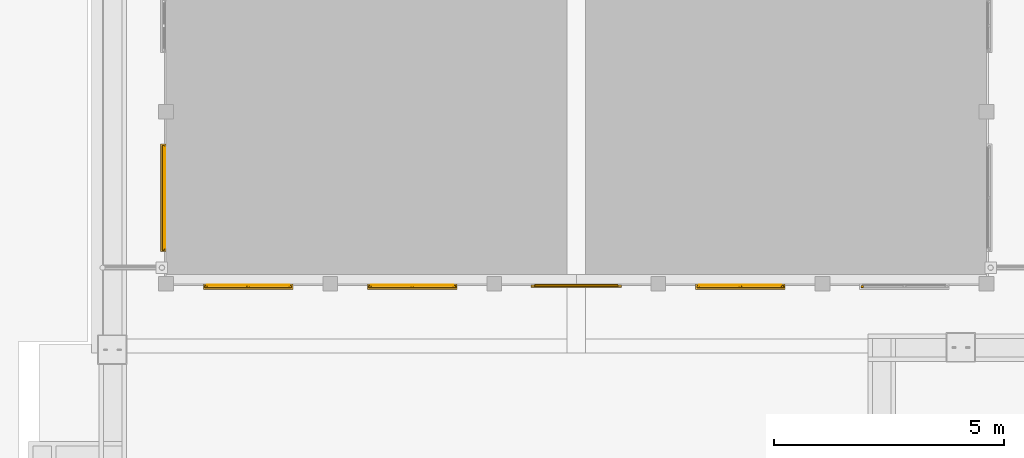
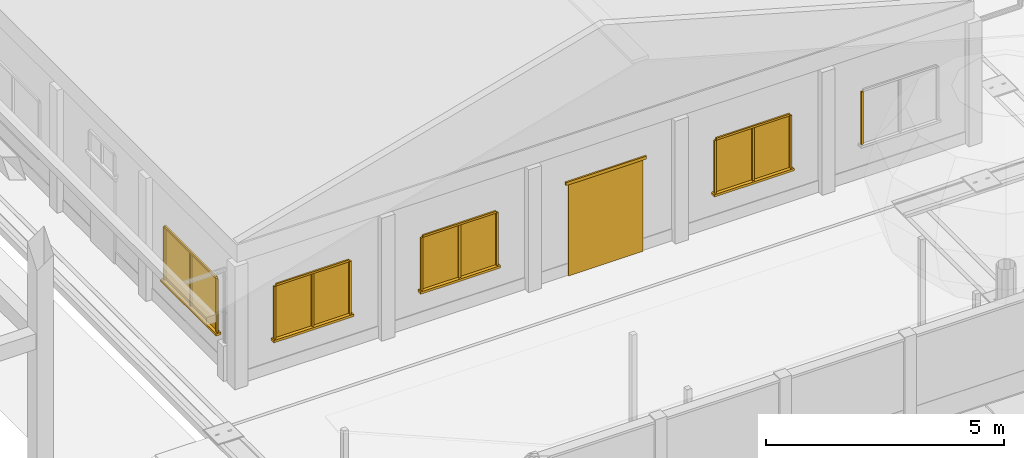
# One storey, part 42 of 177: 25 windows, 2 doors.
"""IFC4 building model written with IfcOpenShell, lengths in metres."""

import ifcopenshell
import ifcopenshell.guid

model = None  # the IFC model being written
_history = None  # IfcOwnerHistory: only IFC2X3 demands one
_inside = {}  # id of a spatial element -> (the spatial element, [elements in it])
_under = {}  # id of a project, library or spatial element -> (it, [spatial elements below it])
_declared = {}  # id of a project -> (the project, [libraries it declares])
_typed = {}  # id of a type object -> (the type object, [elements of that type])
_made_of = {}  # id of a material, layer set ... -> (it, [elements and type objects made of it])


def new_model(schema):
    """Start an empty IFC model of exactly this schema.

    Asked for "IFC4X3", IfcOpenShell would pick the latest addendum, in which some entities
    have other attributes; the version numbers below select the first issue.
    IFC2X3 requires an IfcOwnerHistory on every rooted entity: one is made here for all.
    """
    global model, _history
    if schema == "IFC4X3":
        model = ifcopenshell.file(schema_version=(4, 3, 0, 0))
    else:
        model = ifcopenshell.file(schema=schema)
    _inside.clear()
    _under.clear()
    _declared.clear()
    _typed.clear()
    _made_of.clear()
    _history = None
    if model.schema == "IFC2X3":
        org = make("IfcOrganization", Name="unknown")
        user = make(
            "IfcPersonAndOrganization",
            ThePerson=make("IfcPerson", FamilyName="unknown"),
            TheOrganization=org,
        )
        app = make(
            "IfcApplication",
            ApplicationDeveloper=org,
            Version="unknown",
            ApplicationFullName="unknown",
            ApplicationIdentifier="unknown",
        )
        _history = make(
            "IfcOwnerHistory",
            OwningUser=user,
            OwningApplication=app,
            ChangeAction="ADDED",
            CreationDate=0,
        )
    return model


def make(cls, **values):
    """One entity of the class cls with the attributes given. An attribute that is None is left unset."""
    return model.create_entity(
        cls, **{name: value for name, value in values.items() if value is not None}
    )


def rooted(cls, **values):
    """An entity with a GlobalId (a new one), such as an element, a storey or a relation."""
    return make(cls, GlobalId=ifcopenshell.guid.new(), OwnerHistory=_history, **values)


def si_unit(unit_type, name, prefix=None):
    """IfcSIUnit, for example si_unit("LENGTHUNIT", "METRE", prefix="MILLI")."""
    return make("IfcSIUnit", UnitType=unit_type, Prefix=prefix, Name=name)


def assignment(units):
    """IfcUnitAssignment: the units of a project."""
    return None if units is None else make("IfcUnitAssignment", Units=units)


def point(xyz):
    """IfcCartesianPoint."""
    return None if xyz is None else make("IfcCartesianPoint", Coordinates=xyz)


def direction(xyz):
    """IfcDirection."""
    return None if xyz is None else make("IfcDirection", DirectionRatios=xyz)


def frame(location, z_axis=None, x_axis=None):
    """IfcAxis2Placement3D, a coordinate frame: its origin and axes. An axis left out is left unset."""
    return make(
        "IfcAxis2Placement3D",
        Location=point(location),
        Axis=direction(z_axis),
        RefDirection=direction(x_axis),
    )


def origin():
    """The frame at (0, 0, 0) with its axes left unset."""
    return frame((0.0, 0.0, 0.0))


def origin_with_axes():
    """The frame at (0, 0, 0) with the z axis (0, 0, 1) and the x axis (1, 0, 0) written out."""
    return frame((0.0, 0.0, 0.0), z_axis=(0.0, 0.0, 1.0), x_axis=(1.0, 0.0, 0.0))


def place(relative_to, where):
    """IfcLocalPlacement: puts the frame where relative to a parent placement (None: the world)."""
    return make(
        "IfcLocalPlacement", PlacementRelTo=relative_to, RelativePlacement=where
    )


def context(
    kind, dimensions, precision=None, world=None, true_north=None, identifier=None
):
    """IfcGeometricRepresentationContext, for example the 3D "Model" context."""
    return make(
        "IfcGeometricRepresentationContext",
        ContextIdentifier=identifier,
        ContextType=kind,
        CoordinateSpaceDimension=dimensions,
        Precision=precision,
        WorldCoordinateSystem=world,
        TrueNorth=true_north,
    )


def subcontext(parent, identifier, kind, view, scale=None):
    """IfcGeometricRepresentationSubContext, for example "Body" below "Model"."""
    return make(
        "IfcGeometricRepresentationSubContext",
        ContextIdentifier=identifier,
        ContextType=kind,
        ParentContext=parent,
        TargetScale=scale,
        TargetView=view,
    )


def project(units=None, contexts=None):
    """IfcProject with its units and contexts."""
    return rooted(
        "IfcProject",
        Name="project",
        RepresentationContexts=contexts,
        UnitsInContext=assignment(units),
    )


def spatial(cls, under=None, at=None, **own):
    """A site, building, storey or space (cls), placed at a placement, below another one or the project."""
    s = rooted(cls, ObjectPlacement=at, **own)
    if under is not None:
        _under.setdefault(under.id(), (under, []))[1].append(s)
    return s


def point_list(points):
    """IfcCartesianPointList2D or 3D."""
    cls = (
        "IfcCartesianPointList2D" if len(points[0]) == 2 else "IfcCartesianPointList3D"
    )
    return make(cls, CoordList=points)


def triangles(points, corners, closed=None, point_numbers=None):
    """IfcTriangulatedFaceSet: each triangle names its three corners, points numbered from 1."""
    return make(
        "IfcTriangulatedFaceSet",
        Coordinates=point_list(points),
        Closed=closed,
        CoordIndex=corners,
        PnIndex=point_numbers,
    )


def shape(context_of_items, identifier, shape_type, items):
    """IfcShapeRepresentation: the items that make up one representation, for example the "Body"."""
    return make(
        "IfcShapeRepresentation",
        ContextOfItems=context_of_items,
        RepresentationIdentifier=identifier,
        RepresentationType=shape_type,
        Items=items,
    )


def made_of(thing, what):
    """Note that an element or type object is made of a material, layer set ...; save() writes the relation."""
    if what is not None:
        _made_of.setdefault(what.id(), (what, []))[1].append(thing)
    return thing


def element(
    cls,
    number,
    at=None,
    inside=None,
    cuts=None,
    type_object=None,
    material=None,
    context=None,
    identifier="Body",
    shape_type=None,
    held_by="IfcProductDefinitionShape",
    body=None,
    shapes=None,
    **own,
):
    """One element of the class cls, such as IfcWall. Its Tag is "e" and its number.

    at: its placement. inside: the storey or other place that contains it. cuts: it is an
    opening in that element (IfcRelVoidsElement). A single representation is given by context,
    identifier, shape_type and body (its items); several are given by shapes. held_by: the class
    of the entity that holds the representations. save() writes the other relations.
    """
    e = rooted(cls, Tag="e%d" % number, ObjectPlacement=at, **own)
    if body is not None:
        shapes = [shape(context, identifier, shape_type, body)]
    if shapes is not None:
        e.Representation = make(held_by, Representations=shapes)
    if inside is not None:
        _inside.setdefault(inside.id(), (inside, []))[1].append(e)
    if cuts is not None:
        rooted(
            "IfcRelVoidsElement", RelatingBuildingElement=cuts, RelatedOpeningElement=e
        )
    if type_object is not None:
        _typed.setdefault(type_object.id(), (type_object, []))[1].append(e)
    return made_of(e, material)


def aggregate(whole, parts):
    """IfcRelAggregates: a whole, such as a stair, and the parts it consists of."""
    return rooted("IfcRelAggregates", RelatingObject=whole, RelatedObjects=parts)


def save(model, path):
    """Write the relations noted so far, then the file.

    IfcRelAggregates (storeys below a building ...), IfcRelContainedInSpatialStructure (elements
    in a storey), IfcRelDefinesByType, IfcRelAssociatesMaterial and IfcRelDeclares: one each for
    every whole, place, type object, material and project.
    """
    for whole, parts in _under.values():
        aggregate(whole, parts)
    for where, things in _inside.values():
        rooted(
            "IfcRelContainedInSpatialStructure",
            RelatedElements=things,
            RelatingStructure=where,
        )
    for kind, things in _typed.values():
        rooted("IfcRelDefinesByType", RelatedObjects=things, RelatingType=kind)
    for what, things in _made_of.values():
        rooted("IfcRelAssociatesMaterial", RelatedObjects=things, RelatingMaterial=what)
    for by, libraries in _declared.values():
        rooted("IfcRelDeclares", RelatingContext=by, RelatedDefinitions=libraries)
    model.write(path)


model = new_model("IFC4")

# Units and contexts
model_context = context("Model", 3, precision=1e-05, world=origin_with_axes())
body_context = subcontext(model_context, "Body", "Model", "MODEL_VIEW")
ifc_project = project(units=[si_unit("LENGTHUNIT", "METRE"), si_unit("AREAUNIT", "SQUARE_METRE"), si_unit("VOLUMEUNIT", "CUBIC_METRE"), si_unit("PLANEANGLEUNIT", "RADIAN")], contexts=[model_context])

# Site, building, storey
site_placement = place(None, origin_with_axes())
site = spatial("IfcSite", under=ifc_project, at=site_placement, Name="Predio Los Mangos - Morales, San Martín", CompositionType="ELEMENT")
building_placement = place(site_placement, origin())
building = spatial("IfcBuilding", under=site, at=building_placement, Name="Hogar de Refugio Temporal", CompositionType="ELEMENT")
storey_placement = place(building_placement, origin())
storey = spatial("IfcBuildingStorey", under=building, at=storey_placement, Name="NIVEL 1 (NPT +0.00)", CompositionType="ELEMENT", Elevation=0.0)

# Windows
window_1_placement = place(storey_placement, origin())
element("IfcWindow", 1, at=window_1_placement, inside=storey, Name="E-01_vg0_vid", ObjectType="Ventana", PredefinedType="WINDOW", context=body_context, shape_type="Tessellation", body=[
    triangles([(14.69, 26.26, 1.05), (16.47, 26.26, 1.05), (16.47, 26.28, 1.05), (14.69, 26.28, 1.05), (14.69, 26.26, 2.4), (16.47, 26.26, 2.4), (16.47, 26.28, 2.4), (14.69, 26.28, 2.4)], [[1, 4, 3], [1, 3, 2], [5, 6, 7], [5, 7, 8], [1, 2, 6], [1, 6, 5], [2, 3, 7], [2, 7, 6], [3, 4, 8], [3, 8, 7], [4, 1, 5], [4, 5, 8]]),
])
window_2_placement = place(storey_placement, origin())
element("IfcWindow", 2, at=window_2_placement, inside=storey, Name="E-01_vg0_m", ObjectType="Ventana", PredefinedType="WINDOW", context=body_context, shape_type="Tessellation", body=[
    triangles([(14.64, 26.22, 1.05), (14.69, 26.22, 1.05), (14.69, 26.26, 1.05), (14.64, 26.26, 1.05), (14.64, 26.22, 2.4), (14.69, 26.22, 2.4), (14.69, 26.26, 2.4), (14.64, 26.26, 2.4)], [[1, 4, 3], [1, 3, 2], [5, 6, 7], [5, 7, 8], [1, 2, 6], [1, 6, 5], [2, 3, 7], [2, 7, 6], [3, 4, 8], [3, 8, 7], [4, 1, 5], [4, 5, 8]]),
])
window_3_placement = place(storey_placement, origin())
element("IfcWindow", 3, at=window_3_placement, inside=storey, Name="E-01_vg0_m", ObjectType="Ventana", PredefinedType="WINDOW", context=body_context, shape_type="Tessellation", body=[
    triangles([(16.47, 26.22, 1.05), (16.52, 26.22, 1.05), (16.52, 26.26, 1.05), (16.47, 26.26, 1.05), (16.47, 26.22, 2.4), (16.52, 26.22, 2.4), (16.52, 26.26, 2.4), (16.47, 26.26, 2.4)], [[1, 4, 3], [1, 3, 2], [5, 6, 7], [5, 7, 8], [1, 2, 6], [1, 6, 5], [2, 3, 7], [2, 7, 6], [3, 4, 8], [3, 8, 7], [4, 1, 5], [4, 5, 8]]),
])
window_4_placement = place(storey_placement, origin())
element("IfcWindow", 4, at=window_4_placement, inside=storey, Name="E-01_vg0_m", ObjectType="Ventana", PredefinedType="WINDOW", context=body_context, shape_type="Tessellation", body=[
    triangles([(14.69, 26.22, 2.4), (16.47, 26.22, 2.4), (16.47, 26.26, 2.4), (14.69, 26.26, 2.4), (14.69, 26.22, 2.45), (16.47, 26.22, 2.45), (16.47, 26.26, 2.45), (14.69, 26.26, 2.45)], [[1, 4, 3], [1, 3, 2], [5, 6, 7], [5, 7, 8], [1, 2, 6], [1, 6, 5], [2, 3, 7], [2, 7, 6], [3, 4, 8], [3, 8, 7], [4, 1, 5], [4, 5, 8]]),
])
window_5_placement = place(storey_placement, origin())
element("IfcWindow", 5, at=window_5_placement, inside=storey, Name="E-01_vg0_m", ObjectType="Ventana", PredefinedType="WINDOW", context=body_context, shape_type="Tessellation", body=[
    triangles([(15.555, 26.22, 1.05), (15.605, 26.22, 1.05), (15.605, 26.26, 1.05), (15.555, 26.26, 1.05), (15.555, 26.22, 2.4), (15.605, 26.22, 2.4), (15.605, 26.26, 2.4), (15.555, 26.26, 2.4)], [[1, 4, 3], [1, 3, 2], [5, 6, 7], [5, 7, 8], [1, 2, 6], [1, 6, 5], [2, 3, 7], [2, 7, 6], [3, 4, 8], [3, 8, 7], [4, 1, 5], [4, 5, 8]]),
])
window_6_placement = place(storey_placement, origin())
element("IfcWindow", 6, at=window_6_placement, inside=storey, Name="E-01_vg0_alf", ObjectType="Ventana", PredefinedType="WINDOW", context=body_context, shape_type="Tessellation", body=[
    triangles([(14.61, 26.3, 0.99), (16.55, 26.3, 0.99), (16.55, 26.18, 0.99), (14.61, 26.18, 0.99), (14.61, 26.3, 1.05), (16.55, 26.3, 1.05), (16.55, 26.18, 1.05), (14.61, 26.18, 1.05)], [[1, 4, 3], [1, 3, 2], [5, 6, 7], [5, 7, 8], [1, 2, 6], [1, 6, 5], [2, 3, 7], [2, 7, 6], [3, 4, 8], [3, 8, 7], [4, 1, 5], [4, 5, 8]]),
])
window_7_placement = place(storey_placement, origin())
element("IfcWindow", 7, at=window_7_placement, inside=storey, Name="E-01_vg1_vid", ObjectType="Ventana", PredefinedType="WINDOW", context=body_context, shape_type="Tessellation", body=[
    triangles([(18.25, 26.26, 1.05), (20.03, 26.26, 1.05), (20.03, 26.28, 1.05), (18.25, 26.28, 1.05), (18.25, 26.26, 2.4), (20.03, 26.26, 2.4), (20.03, 26.28, 2.4), (18.25, 26.28, 2.4)], [[1, 4, 3], [1, 3, 2], [5, 6, 7], [5, 7, 8], [1, 2, 6], [1, 6, 5], [2, 3, 7], [2, 7, 6], [3, 4, 8], [3, 8, 7], [4, 1, 5], [4, 5, 8]]),
])
window_8_placement = place(storey_placement, origin())
element("IfcWindow", 8, at=window_8_placement, inside=storey, Name="E-01_vg1_m", ObjectType="Ventana", PredefinedType="WINDOW", context=body_context, shape_type="Tessellation", body=[
    triangles([(18.2, 26.22, 1.05), (18.25, 26.22, 1.05), (18.25, 26.26, 1.05), (18.2, 26.26, 1.05), (18.2, 26.22, 2.4), (18.25, 26.22, 2.4), (18.25, 26.26, 2.4), (18.2, 26.26, 2.4)], [[1, 4, 3], [1, 3, 2], [5, 6, 7], [5, 7, 8], [1, 2, 6], [1, 6, 5], [2, 3, 7], [2, 7, 6], [3, 4, 8], [3, 8, 7], [4, 1, 5], [4, 5, 8]]),
])
window_9_placement = place(storey_placement, origin())
element("IfcWindow", 9, at=window_9_placement, inside=storey, Name="E-01_vg1_m", ObjectType="Ventana", PredefinedType="WINDOW", context=body_context, shape_type="Tessellation", body=[
    triangles([(20.03, 26.22, 1.05), (20.08, 26.22, 1.05), (20.08, 26.26, 1.05), (20.03, 26.26, 1.05), (20.03, 26.22, 2.4), (20.08, 26.22, 2.4), (20.08, 26.26, 2.4), (20.03, 26.26, 2.4)], [[1, 4, 3], [1, 3, 2], [5, 6, 7], [5, 7, 8], [1, 2, 6], [1, 6, 5], [2, 3, 7], [2, 7, 6], [3, 4, 8], [3, 8, 7], [4, 1, 5], [4, 5, 8]]),
])
window_10_placement = place(storey_placement, origin())
element("IfcWindow", 10, at=window_10_placement, inside=storey, Name="E-01_vg1_m", ObjectType="Ventana", PredefinedType="WINDOW", context=body_context, shape_type="Tessellation", body=[
    triangles([(18.25, 26.22, 2.4), (20.03, 26.22, 2.4), (20.03, 26.26, 2.4), (18.25, 26.26, 2.4), (18.25, 26.22, 2.45), (20.03, 26.22, 2.45), (20.03, 26.26, 2.45), (18.25, 26.26, 2.45)], [[1, 4, 3], [1, 3, 2], [5, 6, 7], [5, 7, 8], [1, 2, 6], [1, 6, 5], [2, 3, 7], [2, 7, 6], [3, 4, 8], [3, 8, 7], [4, 1, 5], [4, 5, 8]]),
])
window_11_placement = place(storey_placement, origin())
element("IfcWindow", 11, at=window_11_placement, inside=storey, Name="E-01_vg1_m", ObjectType="Ventana", PredefinedType="WINDOW", context=body_context, shape_type="Tessellation", body=[
    triangles([(19.115, 26.22, 1.05), (19.165, 26.22, 1.05), (19.165, 26.26, 1.05), (19.115, 26.26, 1.05), (19.115, 26.22, 2.4), (19.165, 26.22, 2.4), (19.165, 26.26, 2.4), (19.115, 26.26, 2.4)], [[1, 4, 3], [1, 3, 2], [5, 6, 7], [5, 7, 8], [1, 2, 6], [1, 6, 5], [2, 3, 7], [2, 7, 6], [3, 4, 8], [3, 8, 7], [4, 1, 5], [4, 5, 8]]),
])
window_12_placement = place(storey_placement, origin())
element("IfcWindow", 12, at=window_12_placement, inside=storey, Name="E-01_vg1_alf", ObjectType="Ventana", PredefinedType="WINDOW", context=body_context, shape_type="Tessellation", body=[
    triangles([(18.17, 26.3, 0.99), (20.11, 26.3, 0.99), (20.11, 26.18, 0.99), (18.17, 26.18, 0.99), (18.17, 26.3, 1.05), (20.11, 26.3, 1.05), (20.11, 26.18, 1.05), (18.17, 26.18, 1.05)], [[1, 4, 3], [1, 3, 2], [5, 6, 7], [5, 7, 8], [1, 2, 6], [1, 6, 5], [2, 3, 7], [2, 7, 6], [3, 4, 8], [3, 8, 7], [4, 1, 5], [4, 5, 8]]),
])

# Doors
door_1_placement = place(storey_placement, origin())
element("IfcDoor", 13, at=door_1_placement, inside=storey, Name="E-01_pp", ObjectType="Puerta", PredefinedType="DOOR", context=body_context, shape_type="Tessellation", body=[
    triangles([(21.8, 26.25, 0.15), (23.6, 26.25, 0.15), (23.6, 26.29, 0.15), (21.8, 26.29, 0.15), (21.8, 26.25, 2.5), (23.6, 26.25, 2.5), (23.6, 26.29, 2.5), (21.8, 26.29, 2.5)], [[1, 4, 3], [1, 3, 2], [5, 6, 7], [5, 7, 8], [1, 2, 6], [1, 6, 5], [2, 3, 7], [2, 7, 6], [3, 4, 8], [3, 8, 7], [4, 1, 5], [4, 5, 8]]),
])
door_2_placement = place(storey_placement, origin())
element("IfcDoor", 14, at=door_2_placement, inside=storey, Name="E-01_pp_marco", ObjectType="Puerta", PredefinedType="DOOR", context=body_context, shape_type="Tessellation", body=[
    triangles([(21.72, 26.23, 2.5), (23.68, 26.23, 2.5), (23.68, 26.27, 2.5), (21.72, 26.27, 2.5), (21.72, 26.23, 2.58), (23.68, 26.23, 2.58), (23.68, 26.27, 2.58), (21.72, 26.27, 2.58)], [[1, 4, 3], [1, 3, 2], [5, 6, 7], [5, 7, 8], [1, 2, 6], [1, 6, 5], [2, 3, 7], [2, 7, 6], [3, 4, 8], [3, 8, 7], [4, 1, 5], [4, 5, 8]]),
])

# Windows
window_13_placement = place(storey_placement, origin())
element("IfcWindow", 15, at=window_13_placement, inside=storey, Name="E-01_vg3_vid", ObjectType="Ventana", PredefinedType="WINDOW", context=body_context, shape_type="Tessellation", body=[
    triangles([(25.37, 26.26, 1.05), (27.15, 26.26, 1.05), (27.15, 26.28, 1.05), (25.37, 26.28, 1.05), (25.37, 26.26, 2.4), (27.15, 26.26, 2.4), (27.15, 26.28, 2.4), (25.37, 26.28, 2.4)], [[1, 4, 3], [1, 3, 2], [5, 6, 7], [5, 7, 8], [1, 2, 6], [1, 6, 5], [2, 3, 7], [2, 7, 6], [3, 4, 8], [3, 8, 7], [4, 1, 5], [4, 5, 8]]),
])
window_14_placement = place(storey_placement, origin())
element("IfcWindow", 16, at=window_14_placement, inside=storey, Name="E-01_vg3_m", ObjectType="Ventana", PredefinedType="WINDOW", context=body_context, shape_type="Tessellation", body=[
    triangles([(25.32, 26.22, 1.05), (25.37, 26.22, 1.05), (25.37, 26.26, 1.05), (25.32, 26.26, 1.05), (25.32, 26.22, 2.4), (25.37, 26.22, 2.4), (25.37, 26.26, 2.4), (25.32, 26.26, 2.4)], [[1, 4, 3], [1, 3, 2], [5, 6, 7], [5, 7, 8], [1, 2, 6], [1, 6, 5], [2, 3, 7], [2, 7, 6], [3, 4, 8], [3, 8, 7], [4, 1, 5], [4, 5, 8]]),
])
window_15_placement = place(storey_placement, origin())
element("IfcWindow", 17, at=window_15_placement, inside=storey, Name="E-01_vg3_m", ObjectType="Ventana", PredefinedType="WINDOW", context=body_context, shape_type="Tessellation", body=[
    triangles([(27.15, 26.22, 1.05), (27.2, 26.22, 1.05), (27.2, 26.26, 1.05), (27.15, 26.26, 1.05), (27.15, 26.22, 2.4), (27.2, 26.22, 2.4), (27.2, 26.26, 2.4), (27.15, 26.26, 2.4)], [[1, 4, 3], [1, 3, 2], [5, 6, 7], [5, 7, 8], [1, 2, 6], [1, 6, 5], [2, 3, 7], [2, 7, 6], [3, 4, 8], [3, 8, 7], [4, 1, 5], [4, 5, 8]]),
])
window_16_placement = place(storey_placement, origin())
element("IfcWindow", 18, at=window_16_placement, inside=storey, Name="E-01_vg3_m", ObjectType="Ventana", PredefinedType="WINDOW", context=body_context, shape_type="Tessellation", body=[
    triangles([(25.37, 26.22, 2.4), (27.15, 26.22, 2.4), (27.15, 26.26, 2.4), (25.37, 26.26, 2.4), (25.37, 26.22, 2.45), (27.15, 26.22, 2.45), (27.15, 26.26, 2.45), (25.37, 26.26, 2.45)], [[1, 4, 3], [1, 3, 2], [5, 6, 7], [5, 7, 8], [1, 2, 6], [1, 6, 5], [2, 3, 7], [2, 7, 6], [3, 4, 8], [3, 8, 7], [4, 1, 5], [4, 5, 8]]),
])
window_17_placement = place(storey_placement, origin())
element("IfcWindow", 19, at=window_17_placement, inside=storey, Name="E-01_vg3_m", ObjectType="Ventana", PredefinedType="WINDOW", context=body_context, shape_type="Tessellation", body=[
    triangles([(26.235, 26.22, 1.05), (26.285, 26.22, 1.05), (26.285, 26.26, 1.05), (26.235, 26.26, 1.05), (26.235, 26.22, 2.4), (26.285, 26.22, 2.4), (26.285, 26.26, 2.4), (26.235, 26.26, 2.4)], [[1, 4, 3], [1, 3, 2], [5, 6, 7], [5, 7, 8], [1, 2, 6], [1, 6, 5], [2, 3, 7], [2, 7, 6], [3, 4, 8], [3, 8, 7], [4, 1, 5], [4, 5, 8]]),
])
window_18_placement = place(storey_placement, origin())
element("IfcWindow", 20, at=window_18_placement, inside=storey, Name="E-01_vg3_alf", ObjectType="Ventana", PredefinedType="WINDOW", context=body_context, shape_type="Tessellation", body=[
    triangles([(25.29, 26.3, 0.99), (27.23, 26.3, 0.99), (27.23, 26.18, 0.99), (25.29, 26.18, 0.99), (25.29, 26.3, 1.05), (27.23, 26.3, 1.05), (27.23, 26.18, 1.05), (25.29, 26.18, 1.05)], [[1, 4, 3], [1, 3, 2], [5, 6, 7], [5, 7, 8], [1, 2, 6], [1, 6, 5], [2, 3, 7], [2, 7, 6], [3, 4, 8], [3, 8, 7], [4, 1, 5], [4, 5, 8]]),
])
window_19_placement = place(storey_placement, origin())
element("IfcWindow", 21, at=window_19_placement, inside=storey, Name="E-01_vg4_m", ObjectType="Ventana", PredefinedType="WINDOW", context=body_context, shape_type="Tessellation", body=[
    triangles([(28.88, 26.22, 1.05), (28.93, 26.22, 1.05), (28.93, 26.26, 1.05), (28.88, 26.26, 1.05), (28.88, 26.22, 2.4), (28.93, 26.22, 2.4), (28.93, 26.26, 2.4), (28.88, 26.26, 2.4)], [[1, 4, 3], [1, 3, 2], [5, 6, 7], [5, 7, 8], [1, 2, 6], [1, 6, 5], [2, 3, 7], [2, 7, 6], [3, 4, 8], [3, 8, 7], [4, 1, 5], [4, 5, 8]]),
])
window_20_placement = place(storey_placement, origin())
element("IfcWindow", 22, at=window_20_placement, inside=storey, Name="E-01_v0_vid", ObjectType="Ventana", PredefinedType="WINDOW", context=body_context, shape_type="Tessellation", body=[
    triangles([(13.76, 27.084, 1.05), (13.78, 27.084, 1.05), (13.78, 29.2493, 1.05), (13.76, 29.2493, 1.05), (13.76, 27.084, 2.4), (13.78, 27.084, 2.4), (13.78, 29.2493, 2.4), (13.76, 29.2493, 2.4)], [[1, 4, 3], [1, 3, 2], [5, 6, 7], [5, 7, 8], [1, 2, 6], [1, 6, 5], [2, 3, 7], [2, 7, 6], [3, 4, 8], [3, 8, 7], [4, 1, 5], [4, 5, 8]]),
])
window_21_placement = place(storey_placement, origin())
element("IfcWindow", 23, at=window_21_placement, inside=storey, Name="E-01_v0_m", ObjectType="Ventana", PredefinedType="WINDOW", context=body_context, shape_type="Tessellation", body=[
    triangles([(13.72, 27.034, 1.05), (13.76, 27.034, 1.05), (13.76, 27.084, 1.05), (13.72, 27.084, 1.05), (13.72, 27.034, 2.4), (13.76, 27.034, 2.4), (13.76, 27.084, 2.4), (13.72, 27.084, 2.4)], [[1, 4, 3], [1, 3, 2], [5, 6, 7], [5, 7, 8], [1, 2, 6], [1, 6, 5], [2, 3, 7], [2, 7, 6], [3, 4, 8], [3, 8, 7], [4, 1, 5], [4, 5, 8]]),
])
window_22_placement = place(storey_placement, origin())
element("IfcWindow", 24, at=window_22_placement, inside=storey, Name="E-01_v0_m", ObjectType="Ventana", PredefinedType="WINDOW", context=body_context, shape_type="Tessellation", body=[
    triangles([(13.72, 29.2493, 1.05), (13.76, 29.2493, 1.05), (13.76, 29.2993, 1.05), (13.72, 29.2993, 1.05), (13.72, 29.2493, 2.4), (13.76, 29.2493, 2.4), (13.76, 29.2993, 2.4), (13.72, 29.2993, 2.4)], [[1, 4, 3], [1, 3, 2], [5, 6, 7], [5, 7, 8], [1, 2, 6], [1, 6, 5], [2, 3, 7], [2, 7, 6], [3, 4, 8], [3, 8, 7], [4, 1, 5], [4, 5, 8]]),
])
window_23_placement = place(storey_placement, origin())
element("IfcWindow", 25, at=window_23_placement, inside=storey, Name="E-01_v0_m", ObjectType="Ventana", PredefinedType="WINDOW", context=body_context, shape_type="Tessellation", body=[
    triangles([(13.72, 27.084, 2.4), (13.76, 27.084, 2.4), (13.76, 29.2493, 2.4), (13.72, 29.2493, 2.4), (13.72, 27.084, 2.45), (13.76, 27.084, 2.45), (13.76, 29.2493, 2.45), (13.72, 29.2493, 2.45)], [[1, 4, 3], [1, 3, 2], [5, 6, 7], [5, 7, 8], [1, 2, 6], [1, 6, 5], [2, 3, 7], [2, 7, 6], [3, 4, 8], [3, 8, 7], [4, 1, 5], [4, 5, 8]]),
])
window_24_placement = place(storey_placement, origin())
element("IfcWindow", 26, at=window_24_placement, inside=storey, Name="E-01_v0_m", ObjectType="Ventana", PredefinedType="WINDOW", context=body_context, shape_type="Tessellation", body=[
    triangles([(13.72, 28.1417, 1.05), (13.76, 28.1417, 1.05), (13.76, 28.1917, 1.05), (13.72, 28.1917, 1.05), (13.72, 28.1417, 2.4), (13.76, 28.1417, 2.4), (13.76, 28.1917, 2.4), (13.72, 28.1917, 2.4)], [[1, 4, 3], [1, 3, 2], [5, 6, 7], [5, 7, 8], [1, 2, 6], [1, 6, 5], [2, 3, 7], [2, 7, 6], [3, 4, 8], [3, 8, 7], [4, 1, 5], [4, 5, 8]]),
])
window_25_placement = place(storey_placement, origin())
element("IfcWindow", 27, at=window_25_placement, inside=storey, Name="E-01_v0_alf", ObjectType="Ventana", PredefinedType="WINDOW", context=body_context, shape_type="Tessellation", body=[
    triangles([(13.8, 27.004, 0.99), (13.68, 27.004, 0.99), (13.68, 29.3293, 0.99), (13.8, 29.3293, 0.99), (13.8, 27.004, 1.05), (13.68, 27.004, 1.05), (13.68, 29.3293, 1.05), (13.8, 29.3293, 1.05)], [[1, 4, 3], [1, 3, 2], [5, 6, 7], [5, 7, 8], [1, 2, 6], [1, 6, 5], [2, 3, 7], [2, 7, 6], [3, 4, 8], [3, 8, 7], [4, 1, 5], [4, 5, 8]]),
])

save(model, "model.ifc")
